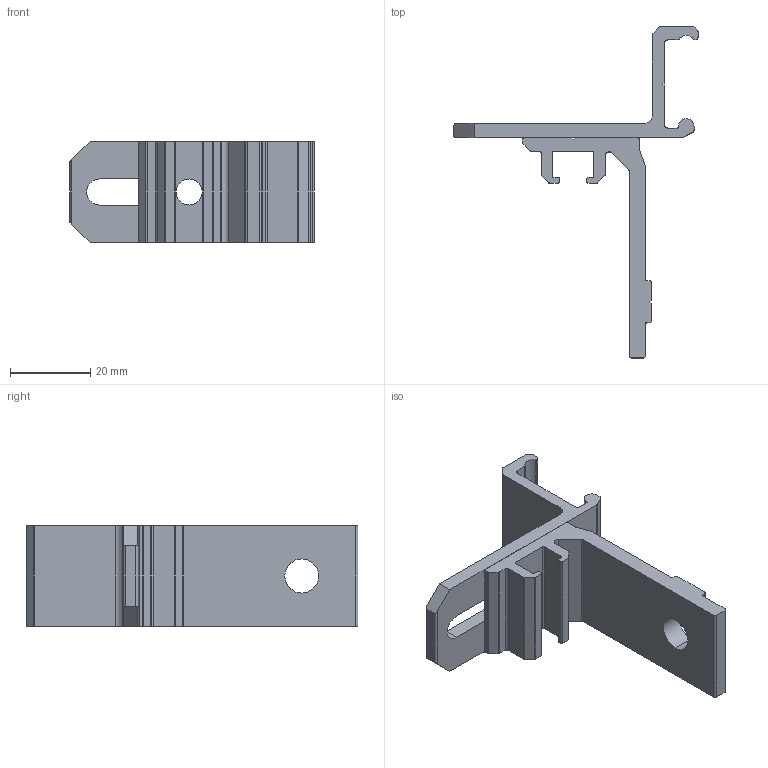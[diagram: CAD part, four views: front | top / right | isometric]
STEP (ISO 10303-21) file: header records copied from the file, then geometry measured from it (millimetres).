
FILE_DESCRIPTION (( 'STEP AP214' ), '1' );
FILE_NAME ('FABER - FGRA 8X39X45.STEP', '2017-04-05T12:12:23', ( '' ), ( '' ), 'SwSTEP 2.0', 'SolidWorks 2016', '' );
FILE_SCHEMA (( 'AUTOMOTIVE_DESIGN' ));
Length unit declared in the file: millimetre
Products named in the file (3): Partie sup. FGRA-8 ou 26x39x45; Support inférieur FGRA-8x39x45; FABER - FGRA 8X39X45
Assembly tree (2 placements, depth 2):
  FABER - FGRA 8X39X45
    Support inférieur FGRA-8x39x45
    Partie sup. FGRA-8 ou 26x39x45
Bounding box: 60.9 x 82.8 x 25 mm (x, y, z)
Volume: 15608.1 mm3; surface area: 10965.6 mm2
Topology: 2 solids, 2 shells, 113 faces, 329 edges, 218 vertices
Faces by surface type: plane 63, cylinder 50
Entity records: 4595 total; most frequent: CARTESIAN_POINT 701, ORIENTED_EDGE 658, DIRECTION 649, EDGE_CURVE 329, LINE 221, VECTOR 221, VERTEX_POINT 218, AXIS2_PLACEMENT_3D 214
